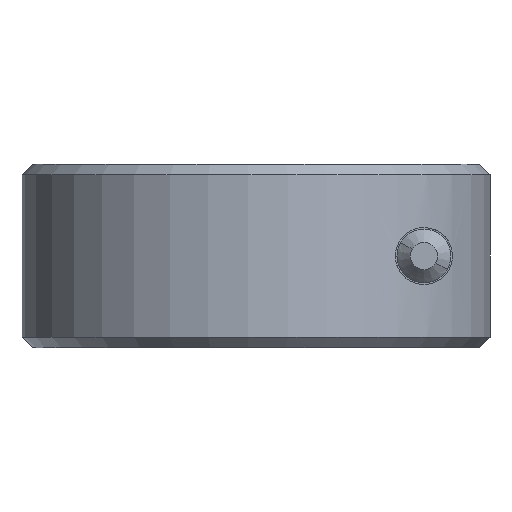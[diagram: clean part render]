
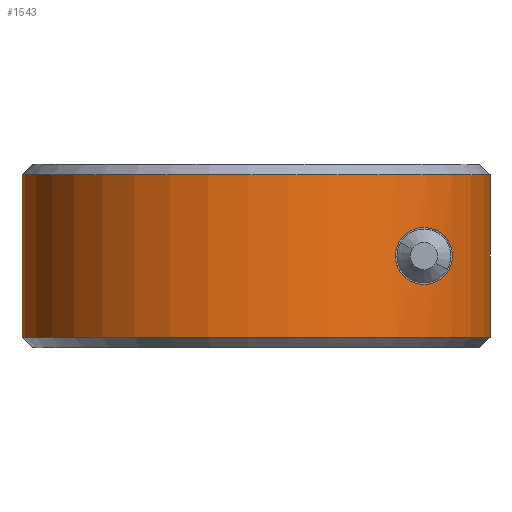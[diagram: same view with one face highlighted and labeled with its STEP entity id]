
A CAD part, front view. The second image highlights one B-rep face of the part: STEP entity #1543.
In plain terms, the highlighted cylindrical face has radius 11.113 mm (diameter 22.225 mm), a partial arc.
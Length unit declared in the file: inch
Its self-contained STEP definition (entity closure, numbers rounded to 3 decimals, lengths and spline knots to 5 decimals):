
#27 = CARTESIAN_POINT ( 'NONE',  ( 0.35227, -0.25957, 0.20804 ) ) ;
#50 = CARTESIAN_POINT ( 'NONE',  ( 0.313, -0.30568, 0.11825 ) ) ;
#88 = EDGE_CURVE ( 'NONE', #747, #249, #1061, .T. ) ;
#148 = CARTESIAN_POINT ( 'NONE',  ( 0.25974, -0.35205, 0.17542 ) ) ;
#156 = CARTESIAN_POINT ( 'NONE',  ( 0.27325, -0.34174, 0.20761 ) ) ;
#162 = CARTESIAN_POINT ( 'NONE',  ( 0.36626, -0.2393, 0.17605 ) ) ;
#163 = VERTEX_POINT ( 'NONE', #471 ) ;
#164 = CARTESIAN_POINT ( 'NONE',  ( 0.26849, -0.34545, 0.20175 ) ) ;
#177 = CARTESIAN_POINT ( 'NONE',  ( 0.36562, -0.24027, 0.16229 ) ) ;
#184 = EDGE_CURVE ( 'NONE', #369, #886, #1033, .T. ) ;
#210 = CARTESIAN_POINT ( 'NONE',  ( 0.30724, -0.31157, 0.22475 ) ) ;
#216 = VERTEX_POINT ( 'NONE', #1058 ) ;
#232 = DIRECTION ( 'NONE',  ( 0., 0., -1. ) ) ;
#238 = VECTOR ( 'NONE', #381, 39.37008 ) ;
#249 = VERTEX_POINT ( 'NONE', #1601 ) ;
#253 = B_SPLINE_CURVE_WITH_KNOTS ( 'NONE', 3,
 ( #1372, #301, #843, #424, #457, #27, #993, #706, #315, #829, #162, #1105, #177, #285, #978, #822, #1380, #1367, #1518, #716, #1111, #50 ),
 .UNSPECIFIED., .F., .F.,
 ( 4, 2, 2, 2, 2, 2, 2, 2, 2, 2, 4 ),
 ( 0.00497, 0.00566, 0.00635, 0.00704, 0.00739, 0.00773, 0.00808, 0.00842, 0.00911, 0.0098, 0.0105 ),
 .UNSPECIFIED. ) ;
#256 = EDGE_CURVE ( 'NONE', #886, #747, #1327, .T. ) ;
#267 = CARTESIAN_POINT ( 'NONE',  ( -0.4375, 0., 0.343 ) ) ;
#285 = CARTESIAN_POINT ( 'NONE',  ( 0.36348, -0.2435, 0.15402 ) ) ;
#301 = CARTESIAN_POINT ( 'NONE',  ( 0.31941, -0.29911, 0.22475 ) ) ;
#315 = CARTESIAN_POINT ( 'NONE',  ( 0.36351, -0.24346, 0.1889 ) ) ;
#317 = CARTESIAN_POINT ( 'NONE',  ( 0.313, -0.30568, 0.22475 ) ) ;
#331 = DIRECTION ( 'NONE',  ( 1., 0., 0. ) ) ;
#336 = B_SPLINE_CURVE_WITH_KNOTS ( 'NONE', 3,
 ( #970, #1628, #1217, #832, #540, #1375, #1484, #420, #1090, #1368, #1499, #1491, #1355, #148, #964, #824, #1360, #164, #156, #695, #1677, #450, #210, #317 ),
 .UNSPECIFIED., .F., .F.,
 ( 4, 2, 2, 2, 2, 2, 2, 2, 2, 2, 2, 4 ),
 ( 0., 0.00062, 0.00124, 0.00155, 0.00186, 0.00217, 0.00248, 0.00279, 0.0031, 0.00372, 0.00435, 0.00497 ),
 .UNSPECIFIED. ) ;
#347 = AXIS2_PLACEMENT_3D ( 'NONE', #356, #1712, #1728 ) ;
#356 = CARTESIAN_POINT ( 'NONE',  ( 0., 0., 0.343 ) ) ;
#369 = VERTEX_POINT ( 'NONE', #1512 ) ;
#380 = EDGE_CURVE ( 'NONE', #216, #163, #253, .T. ) ;
#381 = DIRECTION ( 'NONE',  ( 0., 0., -1. ) ) ;
#420 = CARTESIAN_POINT ( 'NONE',  ( 0.26894, -0.34509, 0.14138 ) ) ;
#424 = CARTESIAN_POINT ( 'NONE',  ( 0.33699, -0.27915, 0.21943 ) ) ;
#443 = DIRECTION ( 'NONE',  ( 0., 0., 1. ) ) ;
#446 = ORIENTED_EDGE ( 'NONE', *, *, #88, .T. ) ;
#450 = CARTESIAN_POINT ( 'NONE',  ( 0.30135, -0.31726, 0.22383 ) ) ;
#457 = CARTESIAN_POINT ( 'NONE',  ( 0.34246, -0.27238, 0.21632 ) ) ;
#471 = CARTESIAN_POINT ( 'NONE',  ( 0.313, -0.30568, 0.11825 ) ) ;
#516 = AXIS2_PLACEMENT_3D ( 'NONE', #1531, #443, #1247 ) ;
#540 = CARTESIAN_POINT ( 'NONE',  ( 0.28396, -0.3329, 0.12633 ) ) ;
#586 = CARTESIAN_POINT ( 'NONE',  ( -0.4375, 0., 0.323 ) ) ;
#596 = ORIENTED_EDGE ( 'NONE', *, *, #380, .T. ) ;
#695 = CARTESIAN_POINT ( 'NONE',  ( 0.28387, -0.33297, 0.21662 ) ) ;
#706 = CARTESIAN_POINT ( 'NONE',  ( 0.36201, -0.24569, 0.19267 ) ) ;
#716 = CARTESIAN_POINT ( 'NONE',  ( 0.32546, -0.2925, 0.11937 ) ) ;
#721 = CARTESIAN_POINT ( 'NONE',  ( 0., 0., 0.323 ) ) ;
#747 = VERTEX_POINT ( 'NONE', #1357 ) ;
#780 = EDGE_LOOP ( 'NONE', ( #596, #1142 ) ) ;
#782 = FACE_OUTER_BOUND ( 'NONE', #1230, .T. ) ;
#822 = CARTESIAN_POINT ( 'NONE',  ( 0.35672, -0.25336, 0.14018 ) ) ;
#824 = CARTESIAN_POINT ( 'NONE',  ( 0.26203, -0.35035, 0.18743 ) ) ;
#828 = ORIENTED_EDGE ( 'NONE', *, *, #1396, .F. ) ;
#829 = CARTESIAN_POINT ( 'NONE',  ( 0.36564, -0.24024, 0.1806 ) ) ;
#832 = CARTESIAN_POINT ( 'NONE',  ( 0.28971, -0.32793, 0.12321 ) ) ;
#843 = CARTESIAN_POINT ( 'NONE',  ( 0.32547, -0.29249, 0.22363 ) ) ;
#858 = DIRECTION ( 'NONE',  ( 0., 0., -1. ) ) ;
#886 = VERTEX_POINT ( 'NONE', #586 ) ;
#964 = CARTESIAN_POINT ( 'NONE',  ( 0.26021, -0.35171, 0.17958 ) ) ;
#970 = CARTESIAN_POINT ( 'NONE',  ( 0.313, -0.30568, 0.11825 ) ) ;
#978 = CARTESIAN_POINT ( 'NONE',  ( 0.36197, -0.24575, 0.15024 ) ) ;
#993 = CARTESIAN_POINT ( 'NONE',  ( 0.35675, -0.25332, 0.20279 ) ) ;
#996 = CARTESIAN_POINT ( 'NONE',  ( 0.43638, -0.03125, 0.343 ) ) ;
#1017 = LINE ( 'NONE', #996, #1619 ) ;
#1033 = CIRCLE ( 'NONE', #1225, 0.4375 ) ;
#1045 = CYLINDRICAL_SURFACE ( 'NONE', #347, 0.4375 ) ;
#1058 = CARTESIAN_POINT ( 'NONE',  ( 0.313, -0.30568, 0.22475 ) ) ;
#1061 = CIRCLE ( 'NONE', #516, 0.4375 ) ;
#1090 = CARTESIAN_POINT ( 'NONE',  ( 0.26686, -0.34669, 0.14463 ) ) ;
#1105 = CARTESIAN_POINT ( 'NONE',  ( 0.36624, -0.23931, 0.16683 ) ) ;
#1111 = CARTESIAN_POINT ( 'NONE',  ( 0.3194, -0.29913, 0.11825 ) ) ;
#1142 = ORIENTED_EDGE ( 'NONE', *, *, #1369, .T. ) ;
#1188 = FACE_BOUND ( 'NONE', #780, .T. ) ;
#1217 = CARTESIAN_POINT ( 'NONE',  ( 0.30143, -0.31719, 0.11915 ) ) ;
#1225 = AXIS2_PLACEMENT_3D ( 'NONE', #721, #232, #331 ) ;
#1230 = EDGE_LOOP ( 'NONE', ( #1255, #1391, #446, #828 ) ) ;
#1247 = DIRECTION ( 'NONE',  ( 1., 0., 0. ) ) ;
#1255 = ORIENTED_EDGE ( 'NONE', *, *, #184, .T. ) ;
#1327 = LINE ( 'NONE', #267, #238 ) ;
#1355 = CARTESIAN_POINT ( 'NONE',  ( 0.25976, -0.35204, 0.16726 ) ) ;
#1357 = CARTESIAN_POINT ( 'NONE',  ( -0.4375, 0., 0.02 ) ) ;
#1360 = CARTESIAN_POINT ( 'NONE',  ( 0.2634, -0.34933, 0.19125 ) ) ;
#1367 = CARTESIAN_POINT ( 'NONE',  ( 0.34245, -0.2724, 0.12667 ) ) ;
#1368 = CARTESIAN_POINT ( 'NONE',  ( 0.26347, -0.34928, 0.15158 ) ) ;
#1369 = EDGE_CURVE ( 'NONE', #163, #216, #336, .T. ) ;
#1372 = CARTESIAN_POINT ( 'NONE',  ( 0.313, -0.30568, 0.22475 ) ) ;
#1375 = CARTESIAN_POINT ( 'NONE',  ( 0.27598, -0.33949, 0.13306 ) ) ;
#1380 = CARTESIAN_POINT ( 'NONE',  ( 0.35224, -0.25961, 0.13494 ) ) ;
#1391 = ORIENTED_EDGE ( 'NONE', *, *, #256, .T. ) ;
#1396 = EDGE_CURVE ( 'NONE', #369, #249, #1017, .T. ) ;
#1484 = CARTESIAN_POINT ( 'NONE',  ( 0.27348, -0.3415, 0.13563 ) ) ;
#1491 = CARTESIAN_POINT ( 'NONE',  ( 0.26025, -0.35168, 0.16317 ) ) ;
#1499 = CARTESIAN_POINT ( 'NONE',  ( 0.26212, -0.35029, 0.15527 ) ) ;
#1512 = CARTESIAN_POINT ( 'NONE',  ( 0.43638, -0.03125, 0.323 ) ) ;
#1518 = CARTESIAN_POINT ( 'NONE',  ( 0.33699, -0.27914, 0.12357 ) ) ;
#1531 = CARTESIAN_POINT ( 'NONE',  ( 0., 0., 0.02 ) ) ;
#1543 = ADVANCED_FACE ( 'NONE', ( #1188, #782 ), #1045, .T. ) ;
#1601 = CARTESIAN_POINT ( 'NONE',  ( 0.43638, -0.03125, 0.02 ) ) ;
#1619 = VECTOR ( 'NONE', #858, 39.37008 ) ;
#1628 = CARTESIAN_POINT ( 'NONE',  ( 0.30725, -0.31156, 0.11825 ) ) ;
#1677 = CARTESIAN_POINT ( 'NONE',  ( 0.28963, -0.328, 0.21975 ) ) ;
#1712 = DIRECTION ( 'NONE',  ( 0., 0., -1. ) ) ;
#1728 = DIRECTION ( 'NONE',  ( -1., 0., 0. ) ) ;
